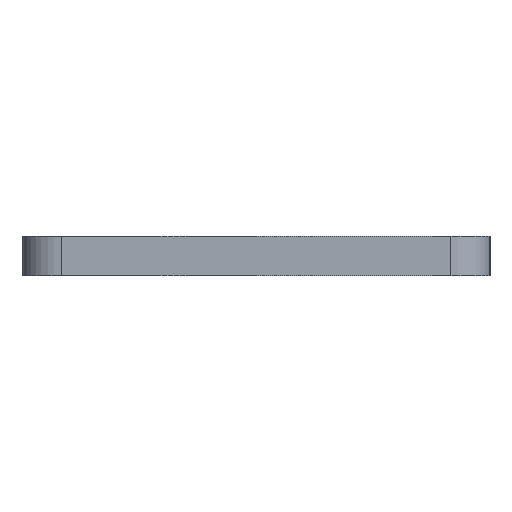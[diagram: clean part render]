
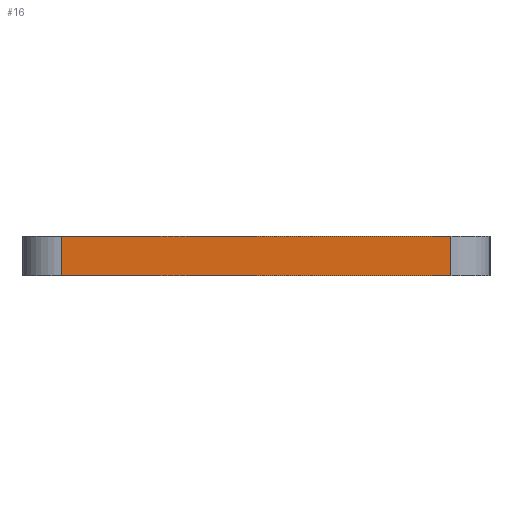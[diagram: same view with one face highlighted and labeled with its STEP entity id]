
A CAD part, front view. The second image highlights one B-rep face of the part: STEP entity #16.
In plain terms, the highlighted planar face has unit normal (0, -1, 0).
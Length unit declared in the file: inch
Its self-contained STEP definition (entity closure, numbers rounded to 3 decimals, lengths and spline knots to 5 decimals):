
#11 = LINE ( 'NONE', #276, #1041 ) ;
#16 = ADVANCED_FACE ( 'NONE', ( #718 ), #238, .T. ) ;
#32 = ORIENTED_EDGE ( 'NONE', *, *, #70, .F. ) ;
#59 = VECTOR ( 'NONE', #205, 39.37008 ) ;
#70 = EDGE_CURVE ( 'NONE', #134, #774, #11, .T. ) ;
#72 = EDGE_LOOP ( 'NONE', ( #354, #32, #891, #408 ) ) ;
#95 = VECTOR ( 'NONE', #201, 39.37008 ) ;
#105 = DIRECTION ( 'NONE',  ( 0., 0., 1. ) ) ;
#112 = CARTESIAN_POINT ( 'NONE',  ( 1.25, -6., -0.125 ) ) ;
#127 = EDGE_CURVE ( 'NONE', #704, #692, #391, .T. ) ;
#134 = VERTEX_POINT ( 'NONE', #848 ) ;
#158 = CARTESIAN_POINT ( 'NONE',  ( -1.25, -6., -0.125 ) ) ;
#201 = DIRECTION ( 'NONE',  ( 0., 0., 1. ) ) ;
#205 = DIRECTION ( 'NONE',  ( 1., 0., 0. ) ) ;
#238 = PLANE ( 'NONE',  #1143 ) ;
#276 = CARTESIAN_POINT ( 'NONE',  ( -1.25, -6., -0.125 ) ) ;
#354 = ORIENTED_EDGE ( 'NONE', *, *, #1137, .F. ) ;
#375 = LINE ( 'NONE', #381, #59 ) ;
#381 = CARTESIAN_POINT ( 'NONE',  ( -1.25, -6., -0.125 ) ) ;
#391 = LINE ( 'NONE', #112, #95 ) ;
#408 = ORIENTED_EDGE ( 'NONE', *, *, #127, .T. ) ;
#440 = EDGE_CURVE ( 'NONE', #134, #704, #375, .T. ) ;
#442 = LINE ( 'NONE', #998, #908 ) ;
#692 = VERTEX_POINT ( 'NONE', #764 ) ;
#704 = VERTEX_POINT ( 'NONE', #771 ) ;
#718 = FACE_OUTER_BOUND ( 'NONE', #72, .T. ) ;
#764 = CARTESIAN_POINT ( 'NONE',  ( 1.25, -6., 0.125 ) ) ;
#771 = CARTESIAN_POINT ( 'NONE',  ( 1.25, -6., -0.125 ) ) ;
#774 = VERTEX_POINT ( 'NONE', #1017 ) ;
#848 = CARTESIAN_POINT ( 'NONE',  ( -1.25, -6., -0.125 ) ) ;
#891 = ORIENTED_EDGE ( 'NONE', *, *, #440, .T. ) ;
#900 = DIRECTION ( 'NONE',  ( 0., -1., 0. ) ) ;
#908 = VECTOR ( 'NONE', #1174, 39.37008 ) ;
#998 = CARTESIAN_POINT ( 'NONE',  ( -1.25, -6., 0.125 ) ) ;
#1017 = CARTESIAN_POINT ( 'NONE',  ( -1.25, -6., 0.125 ) ) ;
#1041 = VECTOR ( 'NONE', #105, 39.37008 ) ;
#1064 = DIRECTION ( 'NONE',  ( 0., 0., -1. ) ) ;
#1137 = EDGE_CURVE ( 'NONE', #774, #692, #442, .T. ) ;
#1143 = AXIS2_PLACEMENT_3D ( 'NONE', #158, #900, #1064 ) ;
#1174 = DIRECTION ( 'NONE',  ( 1., 0., 0. ) ) ;
